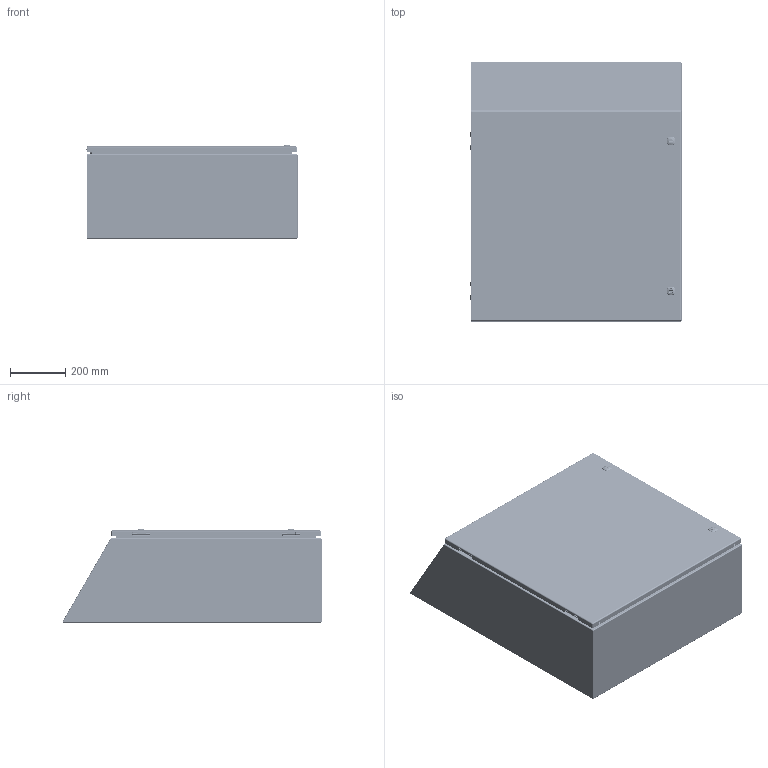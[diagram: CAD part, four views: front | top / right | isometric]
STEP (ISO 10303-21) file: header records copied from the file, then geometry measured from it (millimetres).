
FILE_DESCRIPTION(/* description */ ('5412ESCS 30" x 30" x 12" Assembly'),/* implementation_level */ '2;1');
FILE_NAME(/* name */ 'C:\Vault_Workspace\Inventor_Dwg\BoxCad\Result\5412ESCS303012\e-mail\3D\5412ESCS303012.stp',/* time_stamp */ '2023-03-23T00:40:55-04:00',/* author */ ('patsan'),/* organization */ (''),/* preprocessor_version */ 'ST-DEVELOPER v18.1',/* originating_system */ 'Autodesk Inventor 2020',/* authorisation */ '');
FILE_SCHEMA (('AUTOMOTIVE_DESIGN { 1 0 10303 214 3 1 1 }'));
Products named in the file (42): 5412ESCS303012; 5412ESCS303012B; 5412ESCS303012B-P; STK-Q-16005; STUD_M6 x 16mm; 5412ESCS303012C; 5412ESCS303012C-P; 5412ESCS303012G; STK-K-09800; STK-K-09800-2; STK-Q-33014; STK-Q-90398; STK-Q-40095; STK-Q-63410; STK-Q-16055; STK-Q-46020-30; STK-Q-07220-1; STK-Q-07220-2; STK-Q-07220-3; STK-Q-07220-4; STK-Q-07220-A; STK-Q-07220-B; STK-P-02400S; STK-K-12500-1; STK-K-12500-2; STK-Q-78111; STK-Q-78120; STK-Q-78145; STK-Q-03200; STK-Q-78141; STK-Q-90390; STK-Q-78160; STK-Q-04050-08-1; STK-Q-04050-08-2; STK-Q-04050-08-P; STK-Q-04051-N; STK-A-01800; 5412ESCS303012IPK; STK-Q-07610; STK-Q-07310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
Assembly tree (78 placements, depth 4):
  5412ESCS303012
    5412ESCS303012B
      5412ESCS303012B-P
      STK-Q-16005  x4
      STK-P-02400S
      STUD_M6 x 16mm
    5412ESCS303012C
      5412ESCS303012C-P
      5412ESCS303012G
      STK-K-09800
        STK-Q-33014
        STK-Q-90398
        STK-Q-40095  x2
        STK-Q-63410  x2
      STK-K-09800-2
        STK-Q-33014
        STK-Q-90398
        STK-Q-40095  x2
        STK-Q-63410  x2
      STK-Q-16055  x4
      STK-Q-46020-30  x2
      STK-Q-07220-1
        STK-Q-07220-A
        STK-Q-07220-B
      STK-Q-07220-2
        STK-Q-07220-A
        STK-Q-07220-B
      STK-Q-07220-3
        STK-Q-07220-A
        STK-Q-07220-B
      STK-Q-07220-4
        STK-Q-07220-A
        STK-Q-07220-B
      STK-P-02400S
      STK-K-12500-1
        STK-Q-78111
        STK-Q-78120
        STK-Q-78145
        STK-Q-03200
        STK-Q-78141
        STK-Q-90390
        STK-Q-78160
      STK-K-12500-2
        STK-Q-78111
        STK-Q-78120
        STK-Q-78145
        STK-Q-03200
        STK-Q-78141
        STK-Q-90390
        STK-Q-78160
    STK-Q-04050-08-1
      STK-Q-04050-08-P
      STK-Q-04051-N
    STK-Q-04050-08-2
      STK-Q-04050-08-P
      STK-Q-04051-N
    STK-A-01800
    5412ESCS303012IPK
      STK-Q-07610  x4
      STK-Q-07310  x4
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Bounding box: 762.45 x 936.13 x 337.57 mm (x, y, z)
Volume: 5986931.9 mm3; surface area: 6324696.3 mm2
Topology: 61 solids, 61 shells, 9953 faces, 26575 edges, 16773 vertices
Faces by surface type: bspline 3320, plane 2975, cylinder 2589, torus 713, sphere 220, cone 136
Full cylindrical faces by diameter (mm): 0 x1, 0.75 x9, 0.762 x9, 1 x8, 1.1 x8, 3.2 x4, 4.191 x52, 4.5 x4, 4.521 x8, 4.75 x1, 4.85 x16, 4.95 x4, 5 x4, 5.1 x36, 5.6 x2, 5.9 x29, 6.015 x52, 6.65 x4, 6.8 x4, 6.85 x16, 7.3 x2, 7.366 x4, 7.9 x8, 8 x12, 8.382 x2, 9.5 x4, 9.6 x2, 9.906 x4, 10 x2, 12 x2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
Entity records: 159543 total; most frequent: CARTESIAN_POINT 62143, ORIENTED_EDGE 21940, DIRECTION 16914, EDGE_CURVE 10970, VERTEX_POINT 6922, AXIS2_PLACEMENT_3D 6247, EDGE_LOOP 4542, LINE 4420
